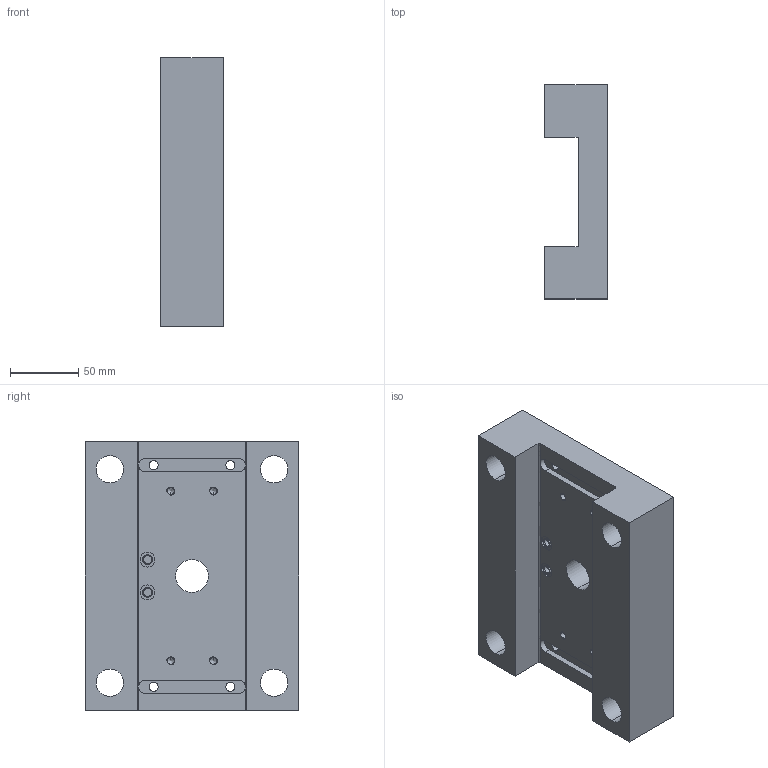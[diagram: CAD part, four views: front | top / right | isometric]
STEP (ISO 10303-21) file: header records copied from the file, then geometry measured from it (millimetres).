
FILE_DESCRIPTION (( 'STEP AP203' ), '1' );
FILE_NAME ('003 Plaque Porte Empreinte.STEP', '2021-10-27T18:18:52', ( '' ), ( '' ), 'SwSTEP 2.0', 'SolidWorks 2019', '' );
FILE_SCHEMA (( 'CONFIG_CONTROL_DESIGN' ));
Length unit declared in the file: millimetre
Products named in the file (1): 003 Plaque Porte Empreinte
Bounding box: 46 x 156 x 196 mm (x, y, z)
Volume: 905818.4 mm3; surface area: 124291.3 mm2
Topology: 1 solids, 1 shells, 202 faces, 499 edges, 314 vertices
Faces by surface type: cylinder 111, plane 65, bspline 26
Entity records: 6156 total; most frequent: CARTESIAN_POINT 1234, DIRECTION 1059, ORIENTED_EDGE 966, EDGE_CURVE 483, AXIS2_PLACEMENT_3D 407, VERTEX_POINT 314, EDGE_LOOP 255, LINE 245
